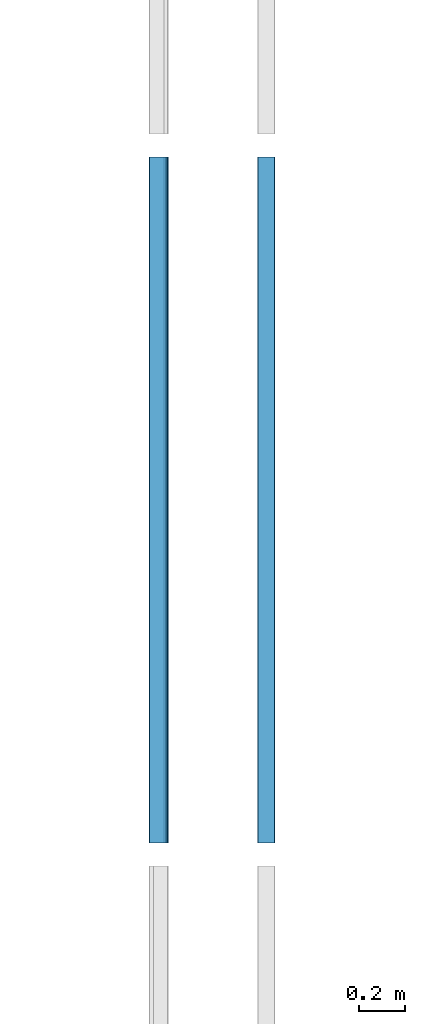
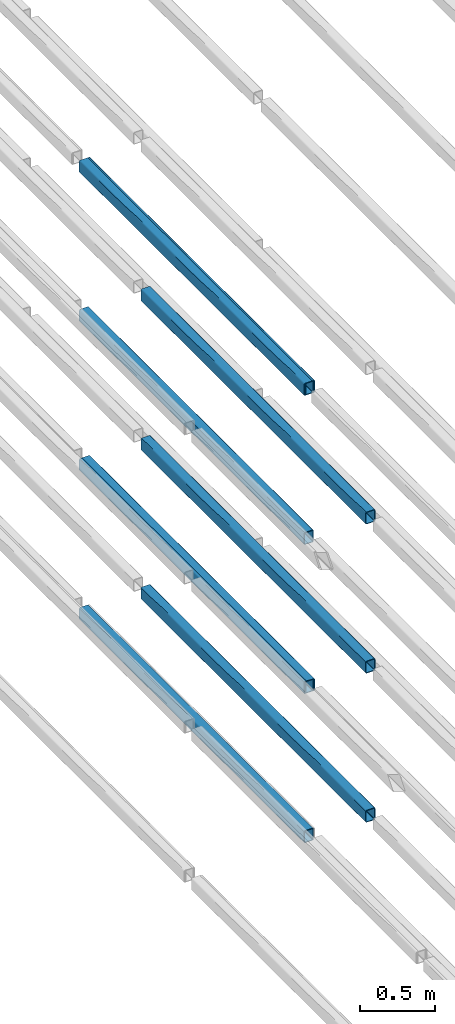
# One storey, part 61 of 290: 9 beams.
"""IFC2X3 building model written with IfcOpenShell, lengths in metres."""

from ifc_helpers import new_model, entity, si_unit, converted_unit, derived_unit, direction, frame, frame_2d, origin, place, context, subcontext, project, spatial, polyline, circle_curve, parameter, trimmed, segment, composite_curve, outline, extrude, material, type_object, element, save


model = new_model("IFC2X3")

# Units and contexts
model_context = context("Model", 3, precision=1e-05, world=origin(), true_north=direction((6.12303176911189e-17, 1.0)))
body_context = subcontext(model_context, "Body", "Model", "MODEL_VIEW")
ifc_project = project(units=[si_unit("LENGTHUNIT", "METRE"), si_unit("AREAUNIT", "SQUARE_METRE"), si_unit("VOLUMEUNIT", "CUBIC_METRE"), converted_unit("PLANEANGLEUNIT", "DEGREE", entity("IfcRatioMeasure", 0.0174532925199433), si_unit("PLANEANGLEUNIT", "RADIAN"), dimensions=[0, 0, 0, 0, 0, 0, 0]), si_unit("MASSUNIT", "GRAM", prefix="KILO"), derived_unit("MASSDENSITYUNIT", [(si_unit("MASSUNIT", "GRAM", prefix="KILO"), 1), (si_unit("LENGTHUNIT", "METRE"), -3)]), derived_unit("MOMENTOFINERTIAUNIT", [(si_unit("LENGTHUNIT", "METRE"), 4)]), si_unit("TIMEUNIT", "SECOND"), si_unit("FREQUENCYUNIT", "HERTZ"), si_unit("THERMODYNAMICTEMPERATUREUNIT", "DEGREE_CELSIUS"), derived_unit("THERMALTRANSMITTANCEUNIT", [(si_unit("MASSUNIT", "GRAM", prefix="KILO"), 1), (si_unit("THERMODYNAMICTEMPERATUREUNIT", "KELVIN"), -1), (si_unit("TIMEUNIT", "SECOND"), -3)]), derived_unit("VOLUMETRICFLOWRATEUNIT", [(si_unit("LENGTHUNIT", "METRE"), 3), (si_unit("TIMEUNIT", "SECOND"), -1)]), si_unit("ELECTRICCURRENTUNIT", "AMPERE"), si_unit("ELECTRICVOLTAGEUNIT", "VOLT"), si_unit("POWERUNIT", "WATT"), si_unit("FORCEUNIT", "NEWTON", prefix="KILO"), si_unit("ILLUMINANCEUNIT", "LUX"), si_unit("LUMINOUSFLUXUNIT", "LUMEN"), si_unit("LUMINOUSINTENSITYUNIT", "CANDELA"), derived_unit("USERDEFINED", [(si_unit("MASSUNIT", "GRAM", prefix="KILO"), -1), (si_unit("LENGTHUNIT", "METRE"), -2), (si_unit("TIMEUNIT", "SECOND"), 3), (si_unit("LUMINOUSFLUXUNIT", "LUMEN"), 1)]), derived_unit("LINEARVELOCITYUNIT", [(si_unit("LENGTHUNIT", "METRE"), 1), (si_unit("TIMEUNIT", "SECOND"), -1)]), si_unit("PRESSUREUNIT", "PASCAL"), derived_unit("USERDEFINED", [(si_unit("LENGTHUNIT", "METRE"), -2), (si_unit("MASSUNIT", "GRAM", prefix="KILO"), 1), (si_unit("TIMEUNIT", "SECOND"), -2)]), derived_unit("LINEARFORCEUNIT", [(si_unit("MASSUNIT", "GRAM", prefix="KILO"), 1), (si_unit("LENGTHUNIT", "METRE"), 1), (si_unit("TIMEUNIT", "SECOND"), -2), (si_unit("LENGTHUNIT", "METRE"), -1)]), derived_unit("PLANARFORCEUNIT", [(si_unit("MASSUNIT", "GRAM", prefix="KILO"), 1), (si_unit("LENGTHUNIT", "METRE"), 1), (si_unit("TIMEUNIT", "SECOND"), -2), (si_unit("LENGTHUNIT", "METRE"), -2)])], contexts=[model_context])

# Site, building, storey
site_placement = place(None, origin())
site = spatial("IfcSite", under=ifc_project, at=site_placement, Name="Default", CompositionType="ELEMENT")
building_placement = place(site_placement, origin())
building = spatial("IfcBuilding", under=site, at=building_placement, CompositionType="ELEMENT")
storey_placement = place(building_placement, frame((0.0, 0.0, 4.0)))
storey = spatial("IfcBuildingStorey", under=building, at=storey_placement, Name="01_OG", CompositionType="ELEMENT", Elevation=4.0)

# Beams
ifc_material = material(Name="Metall - Baustahl S235 blau")
beam_type = type_object("IfcBeamType", Name="RHS Träger (EN 10219-2):RHS 100 x 75 x 5", PredefinedType="NOTDEFINED")
beam_1_placement = place(storey_placement, frame((-200.715111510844, 42.648088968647, -1.2), z_axis=(0.0, 0.0, 1.0), x_axis=(0.0, 1.0, 0.0)))
element("IfcBeam", 1, at=beam_1_placement, inside=storey, type_object=beam_type, material=ifc_material, Name="RHS Träger (EN 10219-2):RHS 100 x 75 x 5", ObjectType="RHS Träger (EN 10219-2):RHS 100 x 75 x 5", context=body_context, shape_type="SweptSolid", body=[
    extrude(outline(composite_curve([segment(trimmed(circle_curve(frame_2d((-0.0274999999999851, -0.0400000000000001), x_axis=(1.0, 0.0)), 0.01), [parameter(180.0)], [parameter(270.0)], True, "PARAMETER"), True, "CONTINUOUS"), segment(polyline([(-0.0274999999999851, -0.05), (0.0274999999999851, -0.05)]), True, "CONTINUOUS"), segment(trimmed(circle_curve(frame_2d((0.0274999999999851, -0.0400000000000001), x_axis=(1.0, 0.0)), 0.01), [parameter(270.0)], [parameter(5.08888749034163e-14)], True, "PARAMETER"), True, "CONTINUOUS"), segment(polyline([(0.0375000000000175, -0.0400000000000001), (0.0375000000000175, 0.0400000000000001)]), True, "CONTINUOUS"), segment(trimmed(circle_curve(frame_2d((0.0274999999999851, 0.0400000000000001), x_axis=(1.0, 0.0)), 0.01), [parameter(360.0)], [parameter(89.9999999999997)], True, "PARAMETER"), True, "CONTINUOUS"), segment(polyline([(0.0274999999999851, 0.05), (-0.0274999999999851, 0.05)]), True, "CONTINUOUS"), segment(trimmed(circle_curve(frame_2d((-0.0274999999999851, 0.0400000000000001), x_axis=(1.0, 0.0)), 0.01), [parameter(90.0000000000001)], [parameter(180.0)], True, "PARAMETER"), True, "CONTINUOUS"), segment(polyline([(-0.0374999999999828, 0.0400000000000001), (-0.0374999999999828, -0.0400000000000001)]), True, "CONTINUOUS")], self_intersect=False), holes=[composite_curve([segment(polyline([(0.0274999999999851, -0.0450000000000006), (-0.0274999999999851, -0.0450000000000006)]), True, "CONTINUOUS"), segment(trimmed(circle_curve(frame_2d((-0.0274999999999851, -0.0400000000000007), x_axis=(1.0, 0.0)), 0.005), [parameter(180.0)], [parameter(270.0)], True, "PARAMETER"), False, "CONTINUOUS"), segment(polyline([(-0.0325000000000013, -0.0400000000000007), (-0.0325000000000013, 0.039999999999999)]), True, "CONTINUOUS"), segment(trimmed(circle_curve(frame_2d((-0.0274999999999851, 0.039999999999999), x_axis=(1.0, 0.0)), 0.005), [parameter(90.0000000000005)], [parameter(180.0)], True, "PARAMETER"), False, "CONTINUOUS"), segment(polyline([(-0.0274999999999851, 0.044999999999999), (0.0274999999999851, 0.044999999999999)]), True, "CONTINUOUS"), segment(trimmed(circle_curve(frame_2d((0.0274999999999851, 0.039999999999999), x_axis=(1.0, 0.0)), 0.005), [parameter(0.0)], [parameter(90.0000000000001)], True, "PARAMETER"), False, "CONTINUOUS"), segment(polyline([(0.0325000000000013, 0.039999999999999), (0.0325000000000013, -0.0400000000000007)]), True, "CONTINUOUS"), segment(trimmed(circle_curve(frame_2d((0.0274999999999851, -0.0400000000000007), x_axis=(1.0, 0.0)), 0.005), [parameter(270.0)], [parameter(4.07110999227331e-13)], True, "PARAMETER"), False, "CONTINUOUS")], self_intersect=False)]), frame((0.000100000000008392, 0.0375000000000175, -0.0500000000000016), z_axis=(1.0, 0.0, 0.0), x_axis=(0.0, -1.0, 0.0)), (0.0, 0.0, 1.0), 2.99979999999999),
])
beam_2_placement = place(storey_placement, frame((-200.715111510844, 42.648088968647, 0.0150000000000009), z_axis=(0.0, 0.0, 1.0), x_axis=(0.0, 1.0, 0.0)))
element("IfcBeam", 2, at=beam_2_placement, inside=storey, type_object=beam_type, material=ifc_material, Name="RHS Träger (EN 10219-2):RHS 100 x 75 x 5", ObjectType="RHS Träger (EN 10219-2):RHS 100 x 75 x 5", context=body_context, shape_type="SweptSolid", body=[
    extrude(outline(composite_curve([segment(trimmed(circle_curve(frame_2d((-0.0274999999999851, -0.0400000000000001), x_axis=(1.0, 0.0)), 0.01), [parameter(180.0)], [parameter(270.0)], True, "PARAMETER"), True, "CONTINUOUS"), segment(polyline([(-0.0274999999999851, -0.05), (0.0274999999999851, -0.05)]), True, "CONTINUOUS"), segment(trimmed(circle_curve(frame_2d((0.0274999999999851, -0.0400000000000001), x_axis=(1.0, 0.0)), 0.01), [parameter(270.0)], [parameter(5.08888749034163e-14)], True, "PARAMETER"), True, "CONTINUOUS"), segment(polyline([(0.0375000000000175, -0.0400000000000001), (0.0375000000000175, 0.0400000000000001)]), True, "CONTINUOUS"), segment(trimmed(circle_curve(frame_2d((0.0274999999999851, 0.0400000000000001), x_axis=(1.0, 0.0)), 0.01), [parameter(360.0)], [parameter(89.9999999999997)], True, "PARAMETER"), True, "CONTINUOUS"), segment(polyline([(0.0274999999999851, 0.05), (-0.0274999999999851, 0.05)]), True, "CONTINUOUS"), segment(trimmed(circle_curve(frame_2d((-0.0274999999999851, 0.0400000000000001), x_axis=(1.0, 0.0)), 0.01), [parameter(90.0000000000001)], [parameter(180.0)], True, "PARAMETER"), True, "CONTINUOUS"), segment(polyline([(-0.0374999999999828, 0.0400000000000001), (-0.0374999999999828, -0.0400000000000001)]), True, "CONTINUOUS")], self_intersect=False), holes=[composite_curve([segment(polyline([(0.0274999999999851, -0.0450000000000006), (-0.0274999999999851, -0.0450000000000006)]), True, "CONTINUOUS"), segment(trimmed(circle_curve(frame_2d((-0.0274999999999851, -0.0400000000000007), x_axis=(1.0, 0.0)), 0.005), [parameter(180.0)], [parameter(270.0)], True, "PARAMETER"), False, "CONTINUOUS"), segment(polyline([(-0.0325000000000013, -0.0400000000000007), (-0.0325000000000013, 0.039999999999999)]), True, "CONTINUOUS"), segment(trimmed(circle_curve(frame_2d((-0.0274999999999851, 0.039999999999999), x_axis=(1.0, 0.0)), 0.005), [parameter(90.0000000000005)], [parameter(180.0)], True, "PARAMETER"), False, "CONTINUOUS"), segment(polyline([(-0.0274999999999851, 0.044999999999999), (0.0274999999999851, 0.044999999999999)]), True, "CONTINUOUS"), segment(trimmed(circle_curve(frame_2d((0.0274999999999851, 0.039999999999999), x_axis=(1.0, 0.0)), 0.005), [parameter(0.0)], [parameter(90.0000000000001)], True, "PARAMETER"), False, "CONTINUOUS"), segment(polyline([(0.0325000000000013, 0.039999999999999), (0.0325000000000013, -0.0400000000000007)]), True, "CONTINUOUS"), segment(trimmed(circle_curve(frame_2d((0.0274999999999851, -0.0400000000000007), x_axis=(1.0, 0.0)), 0.005), [parameter(270.0)], [parameter(4.07110999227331e-13)], True, "PARAMETER"), False, "CONTINUOUS")], self_intersect=False)]), frame((0.000100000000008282, 0.0375000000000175, -0.0500000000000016), z_axis=(1.0, 0.0, 0.0), x_axis=(0.0, -1.0, 0.0)), (0.0, 0.0, 1.0), 2.99979999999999),
])
beam_3_placement = place(storey_placement, frame((-200.715111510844, 42.648088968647, 1.23), z_axis=(0.0, 0.0, 1.0), x_axis=(0.0, 1.0, 0.0)))
element("IfcBeam", 3, at=beam_3_placement, inside=storey, type_object=beam_type, material=ifc_material, Name="RHS Träger (EN 10219-2):RHS 100 x 75 x 5", ObjectType="RHS Träger (EN 10219-2):RHS 100 x 75 x 5", context=body_context, shape_type="SweptSolid", body=[
    extrude(outline(composite_curve([segment(trimmed(circle_curve(frame_2d((-0.0274999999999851, -0.0399999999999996), x_axis=(1.0, 0.0)), 0.01), [parameter(180.0)], [parameter(270.0)], True, "PARAMETER"), True, "CONTINUOUS"), segment(polyline([(-0.0274999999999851, -0.0499999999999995), (0.0274999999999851, -0.0499999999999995)]), True, "CONTINUOUS"), segment(trimmed(circle_curve(frame_2d((0.0274999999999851, -0.0399999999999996), x_axis=(1.0, 0.0)), 0.01), [parameter(270.0)], [parameter(5.08888749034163e-14)], True, "PARAMETER"), True, "CONTINUOUS"), segment(polyline([(0.0375000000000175, -0.0399999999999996), (0.0375000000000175, 0.0399999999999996)]), True, "CONTINUOUS"), segment(trimmed(circle_curve(frame_2d((0.0274999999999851, 0.0399999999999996), x_axis=(1.0, 0.0)), 0.01), [parameter(360.0)], [parameter(89.9999999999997)], True, "PARAMETER"), True, "CONTINUOUS"), segment(polyline([(0.0274999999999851, 0.0500000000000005), (-0.0274999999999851, 0.0500000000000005)]), True, "CONTINUOUS"), segment(trimmed(circle_curve(frame_2d((-0.0274999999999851, 0.0399999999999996), x_axis=(1.0, 0.0)), 0.01), [parameter(90.0000000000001)], [parameter(180.0)], True, "PARAMETER"), True, "CONTINUOUS"), segment(polyline([(-0.0374999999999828, 0.0399999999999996), (-0.0374999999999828, -0.0399999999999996)]), True, "CONTINUOUS")], self_intersect=False), holes=[composite_curve([segment(polyline([(0.0274999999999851, -0.0450000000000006), (-0.0274999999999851, -0.0450000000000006)]), True, "CONTINUOUS"), segment(trimmed(circle_curve(frame_2d((-0.0274999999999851, -0.0400000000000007), x_axis=(1.0, 0.0)), 0.005), [parameter(180.0)], [parameter(270.0)], True, "PARAMETER"), False, "CONTINUOUS"), segment(polyline([(-0.0325000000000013, -0.0400000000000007), (-0.0325000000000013, 0.0399999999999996)]), True, "CONTINUOUS"), segment(trimmed(circle_curve(frame_2d((-0.0274999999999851, 0.0399999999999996), x_axis=(1.0, 0.0)), 0.005), [parameter(90.0000000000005)], [parameter(180.0)], True, "PARAMETER"), False, "CONTINUOUS"), segment(polyline([(-0.0274999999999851, 0.0449999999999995), (0.0274999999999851, 0.0449999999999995)]), True, "CONTINUOUS"), segment(trimmed(circle_curve(frame_2d((0.0274999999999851, 0.0399999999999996), x_axis=(1.0, 0.0)), 0.005), [parameter(0.0)], [parameter(90.0000000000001)], True, "PARAMETER"), False, "CONTINUOUS"), segment(polyline([(0.0325000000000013, 0.0399999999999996), (0.0325000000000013, -0.0400000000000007)]), True, "CONTINUOUS"), segment(trimmed(circle_curve(frame_2d((0.0274999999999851, -0.0400000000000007), x_axis=(1.0, 0.0)), 0.005), [parameter(270.0)], [parameter(4.07110999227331e-13)], True, "PARAMETER"), False, "CONTINUOUS")], self_intersect=False)]), frame((0.000100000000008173, 0.0375000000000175, -0.0500000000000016), z_axis=(1.0, 0.0, 0.0), x_axis=(0.0, -1.0, 0.0)), (0.0, 0.0, 1.0), 2.99979999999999),
])
beam_4_placement = place(storey_placement, frame((-201.255111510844, 42.648088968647, 0.0150000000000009), z_axis=(0.0, 0.0, 1.0), x_axis=(0.0, 1.0, 0.0)))
element("IfcBeam", 4, at=beam_4_placement, inside=storey, type_object=beam_type, material=ifc_material, Name="RHS Träger (EN 10219-2):RHS 100 x 75 x 5", ObjectType="RHS Träger (EN 10219-2):RHS 100 x 75 x 5", context=body_context, shape_type="SweptSolid", body=[
    extrude(outline(composite_curve([segment(polyline([(-0.0400000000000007, -0.0374999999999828), (0.0399999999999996, -0.0374999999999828)]), True, "CONTINUOUS"), segment(trimmed(circle_curve(frame_2d((0.0399999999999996, -0.0274999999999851), x_axis=(0.0, 1.0)), 0.01), [parameter(180.0)], [parameter(270.0)], True, "PARAMETER"), True, "CONTINUOUS"), segment(polyline([(0.0499999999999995, -0.0274999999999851), (0.0499999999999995, 0.0274999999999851)]), True, "CONTINUOUS"), segment(trimmed(circle_curve(frame_2d((0.0399999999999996, 0.0274999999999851), x_axis=(0.0, 1.0)), 0.01), [parameter(270.0)], [parameter(4.07110999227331e-13)], True, "PARAMETER"), True, "CONTINUOUS"), segment(polyline([(0.0399999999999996, 0.0375000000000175), (-0.0400000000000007, 0.0375000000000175)]), True, "CONTINUOUS"), segment(trimmed(circle_curve(frame_2d((-0.0400000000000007, 0.0274999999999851), x_axis=(0.0, 1.0)), 0.01), [parameter(360.0)], [parameter(90.0000000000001)], True, "PARAMETER"), True, "CONTINUOUS"), segment(polyline([(-0.0500000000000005, 0.0274999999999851), (-0.0500000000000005, -0.0274999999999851)]), True, "CONTINUOUS"), segment(trimmed(circle_curve(frame_2d((-0.0400000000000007, -0.0274999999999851), x_axis=(0.0, 1.0)), 0.01), [parameter(90.0000000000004)], [parameter(180.0)], True, "PARAMETER"), True, "CONTINUOUS")], self_intersect=False), holes=[composite_curve([segment(trimmed(circle_curve(frame_2d((-0.0400000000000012, 0.0274999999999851), x_axis=(0.0, 1.0)), 0.005), [parameter(360.0)], [parameter(89.9999999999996)], True, "PARAMETER"), False, "CONTINUOUS"), segment(polyline([(-0.0400000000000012, 0.0325000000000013), (0.0399999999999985, 0.0325000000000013)]), True, "CONTINUOUS"), segment(trimmed(circle_curve(frame_2d((0.0399999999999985, 0.0274999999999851), x_axis=(0.0, 1.0)), 0.005), [parameter(270.0)], [parameter(0.0)], True, "PARAMETER"), False, "CONTINUOUS"), segment(polyline([(0.0449999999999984, 0.0274999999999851), (0.0449999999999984, -0.0274999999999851)]), True, "CONTINUOUS"), segment(trimmed(circle_curve(frame_2d((0.0399999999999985, -0.0274999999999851), x_axis=(0.0, 1.0)), 0.005), [parameter(180.0)], [parameter(269.999999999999)], True, "PARAMETER"), False, "CONTINUOUS"), segment(polyline([(0.0399999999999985, -0.0325000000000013), (-0.0400000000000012, -0.0325000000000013)]), True, "CONTINUOUS"), segment(trimmed(circle_curve(frame_2d((-0.0400000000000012, -0.0274999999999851), x_axis=(0.0, 1.0)), 0.005), [parameter(90.0000000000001)], [parameter(180.0)], True, "PARAMETER"), False, "CONTINUOUS"), segment(polyline([(-0.0450000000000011, -0.0274999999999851), (-0.0450000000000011, 0.0274999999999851)]), True, "CONTINUOUS")], self_intersect=False)]), frame((0.000100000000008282, -0.0375000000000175, -0.0500000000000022), z_axis=(1.0, 0.0, 0.0), x_axis=(0.0, 0.0, -1.0)), (0.0, 0.0, 1.0), 2.99979999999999),
])
beam_5_placement = place(storey_placement, frame((-201.255111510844, 42.648088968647, 2.445), z_axis=(0.0, 0.0, 1.0), x_axis=(0.0, 1.0, 0.0)))
element("IfcBeam", 5, at=beam_5_placement, inside=storey, type_object=beam_type, material=ifc_material, Name="RHS Träger (EN 10219-2):RHS 100 x 75 x 5", ObjectType="RHS Träger (EN 10219-2):RHS 100 x 75 x 5", context=body_context, shape_type="SweptSolid", body=[
    extrude(outline(composite_curve([segment(polyline([(-0.0399999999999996, -0.0374999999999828), (0.0399999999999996, -0.0374999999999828)]), True, "CONTINUOUS"), segment(trimmed(circle_curve(frame_2d((0.0399999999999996, -0.0274999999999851), x_axis=(0.0, 1.0)), 0.01), [parameter(180.0)], [parameter(270.0)], True, "PARAMETER"), True, "CONTINUOUS"), segment(polyline([(0.0500000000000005, -0.0274999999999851), (0.0500000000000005, 0.0274999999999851)]), True, "CONTINUOUS"), segment(trimmed(circle_curve(frame_2d((0.0399999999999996, 0.0274999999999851), x_axis=(0.0, 1.0)), 0.01), [parameter(270.0)], [parameter(4.07110999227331e-13)], True, "PARAMETER"), True, "CONTINUOUS"), segment(polyline([(0.0399999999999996, 0.0375000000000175), (-0.0399999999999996, 0.0375000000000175)]), True, "CONTINUOUS"), segment(trimmed(circle_curve(frame_2d((-0.0399999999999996, 0.0274999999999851), x_axis=(0.0, 1.0)), 0.01), [parameter(360.0)], [parameter(90.0000000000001)], True, "PARAMETER"), True, "CONTINUOUS"), segment(polyline([(-0.0499999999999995, 0.0274999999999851), (-0.0499999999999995, -0.0274999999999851)]), True, "CONTINUOUS"), segment(trimmed(circle_curve(frame_2d((-0.0399999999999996, -0.0274999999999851), x_axis=(0.0, 1.0)), 0.01), [parameter(90.0000000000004)], [parameter(180.0)], True, "PARAMETER"), True, "CONTINUOUS")], self_intersect=False), holes=[composite_curve([segment(trimmed(circle_curve(frame_2d((-0.0400000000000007, 0.0274999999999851), x_axis=(0.0, 1.0)), 0.005), [parameter(360.0)], [parameter(89.9999999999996)], True, "PARAMETER"), False, "CONTINUOUS"), segment(polyline([(-0.0400000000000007, 0.0325000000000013), (0.0399999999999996, 0.0325000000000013)]), True, "CONTINUOUS"), segment(trimmed(circle_curve(frame_2d((0.0399999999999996, 0.0274999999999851), x_axis=(0.0, 1.0)), 0.005), [parameter(270.0)], [parameter(0.0)], True, "PARAMETER"), False, "CONTINUOUS"), segment(polyline([(0.0449999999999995, 0.0274999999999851), (0.0449999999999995, -0.0274999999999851)]), True, "CONTINUOUS"), segment(trimmed(circle_curve(frame_2d((0.0399999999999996, -0.0274999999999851), x_axis=(0.0, 1.0)), 0.005), [parameter(180.0)], [parameter(269.999999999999)], True, "PARAMETER"), False, "CONTINUOUS"), segment(polyline([(0.0399999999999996, -0.0325000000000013), (-0.0400000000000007, -0.0325000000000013)]), True, "CONTINUOUS"), segment(trimmed(circle_curve(frame_2d((-0.0400000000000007, -0.0274999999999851), x_axis=(0.0, 1.0)), 0.005), [parameter(90.0000000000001)], [parameter(180.0)], True, "PARAMETER"), False, "CONTINUOUS"), segment(polyline([(-0.0450000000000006, -0.0274999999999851), (-0.0450000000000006, 0.0274999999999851)]), True, "CONTINUOUS")], self_intersect=False)]), frame((0.000100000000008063, -0.0375000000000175, -0.0500000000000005), z_axis=(1.0, 0.0, 0.0), x_axis=(0.0, 0.0, -1.0)), (0.0, 0.0, 1.0), 2.99979999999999),
])
beam_6_placement = place(storey_placement, frame((-201.265111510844, 42.648088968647, -1.2), z_axis=(0.0, 0.0, 1.0), x_axis=(0.0, 1.0, 0.0)))
element("IfcBeam", 6, at=beam_6_placement, inside=storey, type_object=beam_type, material=ifc_material, Name="RHS Träger (EN 10219-2):RHS 100 x 75 x 5", ObjectType="RHS Träger (EN 10219-2):RHS 100 x 75 x 5", context=body_context, shape_type="SweptSolid", body=[
    extrude(outline(composite_curve([segment(polyline([(-0.0400000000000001, -0.0374999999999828), (0.0400000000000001, -0.0374999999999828)]), True, "CONTINUOUS"), segment(trimmed(circle_curve(frame_2d((0.0400000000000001, -0.0274999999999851), x_axis=(0.0, 1.0)), 0.01), [parameter(180.0)], [parameter(270.0)], True, "PARAMETER"), True, "CONTINUOUS"), segment(polyline([(0.05, -0.0274999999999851), (0.05, 0.0274999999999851)]), True, "CONTINUOUS"), segment(trimmed(circle_curve(frame_2d((0.0400000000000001, 0.0274999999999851), x_axis=(0.0, 1.0)), 0.01), [parameter(270.0)], [parameter(4.07110999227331e-13)], True, "PARAMETER"), True, "CONTINUOUS"), segment(polyline([(0.0400000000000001, 0.0375000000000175), (-0.0400000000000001, 0.0375000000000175)]), True, "CONTINUOUS"), segment(trimmed(circle_curve(frame_2d((-0.0400000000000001, 0.0274999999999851), x_axis=(0.0, 1.0)), 0.01), [parameter(360.0)], [parameter(90.0000000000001)], True, "PARAMETER"), True, "CONTINUOUS"), segment(polyline([(-0.05, 0.0274999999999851), (-0.05, -0.0274999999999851)]), True, "CONTINUOUS"), segment(trimmed(circle_curve(frame_2d((-0.0400000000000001, -0.0274999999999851), x_axis=(0.0, 1.0)), 0.01), [parameter(90.0000000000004)], [parameter(180.0)], True, "PARAMETER"), True, "CONTINUOUS")], self_intersect=False), holes=[composite_curve([segment(trimmed(circle_curve(frame_2d((-0.0400000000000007, 0.0274999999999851), x_axis=(0.0, 1.0)), 0.005), [parameter(360.0)], [parameter(89.9999999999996)], True, "PARAMETER"), False, "CONTINUOUS"), segment(polyline([(-0.0400000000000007, 0.0325000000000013), (0.039999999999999, 0.0325000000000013)]), True, "CONTINUOUS"), segment(trimmed(circle_curve(frame_2d((0.039999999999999, 0.0274999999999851), x_axis=(0.0, 1.0)), 0.005), [parameter(270.0)], [parameter(0.0)], True, "PARAMETER"), False, "CONTINUOUS"), segment(polyline([(0.044999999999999, 0.0274999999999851), (0.044999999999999, -0.0274999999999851)]), True, "CONTINUOUS"), segment(trimmed(circle_curve(frame_2d((0.039999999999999, -0.0274999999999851), x_axis=(0.0, 1.0)), 0.005), [parameter(180.0)], [parameter(269.999999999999)], True, "PARAMETER"), False, "CONTINUOUS"), segment(polyline([(0.039999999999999, -0.0325000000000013), (-0.0400000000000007, -0.0325000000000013)]), True, "CONTINUOUS"), segment(trimmed(circle_curve(frame_2d((-0.0400000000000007, -0.0274999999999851), x_axis=(0.0, 1.0)), 0.005), [parameter(90.0000000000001)], [parameter(180.0)], True, "PARAMETER"), False, "CONTINUOUS"), segment(polyline([(-0.0450000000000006, -0.0274999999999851), (-0.0450000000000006, 0.0274999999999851)]), True, "CONTINUOUS")], self_intersect=False)]), frame((0.000100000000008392, -0.0375000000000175, -0.0500000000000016), z_axis=(1.0, 0.0, 0.0), x_axis=(0.0, 0.0, -1.0)), (0.0, 0.0, 1.0), 2.99979999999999),
])
beam_7_placement = place(storey_placement, frame((-201.265111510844, 42.648088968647, 0.0150000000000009), z_axis=(0.0, 0.0, 1.0), x_axis=(0.0, 1.0, 0.0)))
element("IfcBeam", 7, at=beam_7_placement, inside=storey, type_object=beam_type, material=ifc_material, Name="RHS Träger (EN 10219-2):RHS 100 x 75 x 5", ObjectType="RHS Träger (EN 10219-2):RHS 100 x 75 x 5", context=body_context, shape_type="SweptSolid", body=[
    extrude(outline(composite_curve([segment(polyline([(-0.0400000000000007, -0.0374999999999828), (0.0399999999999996, -0.0374999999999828)]), True, "CONTINUOUS"), segment(trimmed(circle_curve(frame_2d((0.0399999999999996, -0.0274999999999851), x_axis=(0.0, 1.0)), 0.01), [parameter(180.0)], [parameter(270.0)], True, "PARAMETER"), True, "CONTINUOUS"), segment(polyline([(0.0499999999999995, -0.0274999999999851), (0.0499999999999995, 0.0274999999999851)]), True, "CONTINUOUS"), segment(trimmed(circle_curve(frame_2d((0.0399999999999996, 0.0274999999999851), x_axis=(0.0, 1.0)), 0.01), [parameter(270.0)], [parameter(4.07110999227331e-13)], True, "PARAMETER"), True, "CONTINUOUS"), segment(polyline([(0.0399999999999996, 0.0375000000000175), (-0.0400000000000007, 0.0375000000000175)]), True, "CONTINUOUS"), segment(trimmed(circle_curve(frame_2d((-0.0400000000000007, 0.0274999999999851), x_axis=(0.0, 1.0)), 0.01), [parameter(360.0)], [parameter(90.0000000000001)], True, "PARAMETER"), True, "CONTINUOUS"), segment(polyline([(-0.0500000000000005, 0.0274999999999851), (-0.0500000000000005, -0.0274999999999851)]), True, "CONTINUOUS"), segment(trimmed(circle_curve(frame_2d((-0.0400000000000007, -0.0274999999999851), x_axis=(0.0, 1.0)), 0.01), [parameter(90.0000000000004)], [parameter(180.0)], True, "PARAMETER"), True, "CONTINUOUS")], self_intersect=False), holes=[composite_curve([segment(trimmed(circle_curve(frame_2d((-0.0400000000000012, 0.0274999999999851), x_axis=(0.0, 1.0)), 0.005), [parameter(360.0)], [parameter(89.9999999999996)], True, "PARAMETER"), False, "CONTINUOUS"), segment(polyline([(-0.0400000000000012, 0.0325000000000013), (0.0399999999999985, 0.0325000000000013)]), True, "CONTINUOUS"), segment(trimmed(circle_curve(frame_2d((0.0399999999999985, 0.0274999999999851), x_axis=(0.0, 1.0)), 0.005), [parameter(270.0)], [parameter(0.0)], True, "PARAMETER"), False, "CONTINUOUS"), segment(polyline([(0.0449999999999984, 0.0274999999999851), (0.0449999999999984, -0.0274999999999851)]), True, "CONTINUOUS"), segment(trimmed(circle_curve(frame_2d((0.0399999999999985, -0.0274999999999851), x_axis=(0.0, 1.0)), 0.005), [parameter(180.0)], [parameter(269.999999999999)], True, "PARAMETER"), False, "CONTINUOUS"), segment(polyline([(0.0399999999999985, -0.0325000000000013), (-0.0400000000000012, -0.0325000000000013)]), True, "CONTINUOUS"), segment(trimmed(circle_curve(frame_2d((-0.0400000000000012, -0.0274999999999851), x_axis=(0.0, 1.0)), 0.005), [parameter(90.0000000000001)], [parameter(180.0)], True, "PARAMETER"), False, "CONTINUOUS"), segment(polyline([(-0.0450000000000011, -0.0274999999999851), (-0.0450000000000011, 0.0274999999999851)]), True, "CONTINUOUS")], self_intersect=False)]), frame((0.000100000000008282, -0.0375000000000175, -0.0500000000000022), z_axis=(1.0, 0.0, 0.0), x_axis=(0.0, 0.0, -1.0)), (0.0, 0.0, 1.0), 2.99979999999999),
])
beam_8_placement = place(storey_placement, frame((-201.265111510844, 42.648088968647, 1.23), z_axis=(0.0, 0.0, 1.0), x_axis=(0.0, 1.0, 0.0)))
element("IfcBeam", 8, at=beam_8_placement, inside=storey, type_object=beam_type, material=ifc_material, Name="RHS Träger (EN 10219-2):RHS 100 x 75 x 5", ObjectType="RHS Träger (EN 10219-2):RHS 100 x 75 x 5", context=body_context, shape_type="SweptSolid", body=[
    extrude(outline(composite_curve([segment(polyline([(-0.0399999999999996, -0.0374999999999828), (0.0399999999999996, -0.0374999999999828)]), True, "CONTINUOUS"), segment(trimmed(circle_curve(frame_2d((0.0399999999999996, -0.0274999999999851), x_axis=(0.0, 1.0)), 0.01), [parameter(180.0)], [parameter(270.0)], True, "PARAMETER"), True, "CONTINUOUS"), segment(polyline([(0.0500000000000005, -0.0274999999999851), (0.0500000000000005, 0.0274999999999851)]), True, "CONTINUOUS"), segment(trimmed(circle_curve(frame_2d((0.0399999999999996, 0.0274999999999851), x_axis=(0.0, 1.0)), 0.01), [parameter(270.0)], [parameter(4.07110999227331e-13)], True, "PARAMETER"), True, "CONTINUOUS"), segment(polyline([(0.0399999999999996, 0.0375000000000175), (-0.0399999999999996, 0.0375000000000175)]), True, "CONTINUOUS"), segment(trimmed(circle_curve(frame_2d((-0.0399999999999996, 0.0274999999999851), x_axis=(0.0, 1.0)), 0.01), [parameter(360.0)], [parameter(90.0000000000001)], True, "PARAMETER"), True, "CONTINUOUS"), segment(polyline([(-0.0499999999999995, 0.0274999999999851), (-0.0499999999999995, -0.0274999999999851)]), True, "CONTINUOUS"), segment(trimmed(circle_curve(frame_2d((-0.0399999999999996, -0.0274999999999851), x_axis=(0.0, 1.0)), 0.01), [parameter(90.0000000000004)], [parameter(180.0)], True, "PARAMETER"), True, "CONTINUOUS")], self_intersect=False), holes=[composite_curve([segment(trimmed(circle_curve(frame_2d((-0.0400000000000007, 0.0274999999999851), x_axis=(0.0, 1.0)), 0.005), [parameter(360.0)], [parameter(89.9999999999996)], True, "PARAMETER"), False, "CONTINUOUS"), segment(polyline([(-0.0400000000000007, 0.0325000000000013), (0.0399999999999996, 0.0325000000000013)]), True, "CONTINUOUS"), segment(trimmed(circle_curve(frame_2d((0.0399999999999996, 0.0274999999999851), x_axis=(0.0, 1.0)), 0.005), [parameter(270.0)], [parameter(0.0)], True, "PARAMETER"), False, "CONTINUOUS"), segment(polyline([(0.0449999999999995, 0.0274999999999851), (0.0449999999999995, -0.0274999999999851)]), True, "CONTINUOUS"), segment(trimmed(circle_curve(frame_2d((0.0399999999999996, -0.0274999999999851), x_axis=(0.0, 1.0)), 0.005), [parameter(180.0)], [parameter(269.999999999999)], True, "PARAMETER"), False, "CONTINUOUS"), segment(polyline([(0.0399999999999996, -0.0325000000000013), (-0.0400000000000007, -0.0325000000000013)]), True, "CONTINUOUS"), segment(trimmed(circle_curve(frame_2d((-0.0400000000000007, -0.0274999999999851), x_axis=(0.0, 1.0)), 0.005), [parameter(90.0000000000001)], [parameter(180.0)], True, "PARAMETER"), False, "CONTINUOUS"), segment(polyline([(-0.0450000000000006, -0.0274999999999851), (-0.0450000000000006, 0.0274999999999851)]), True, "CONTINUOUS")], self_intersect=False)]), frame((0.000100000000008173, -0.0375000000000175, -0.0500000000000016), z_axis=(1.0, 0.0, 0.0), x_axis=(0.0, 0.0, -1.0)), (0.0, 0.0, 1.0), 2.99979999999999),
])
beam_9_placement = place(storey_placement, frame((-201.265111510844, 42.648088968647, 2.445), z_axis=(0.0, 0.0, 1.0), x_axis=(0.0, 1.0, 0.0)))
element("IfcBeam", 9, at=beam_9_placement, inside=storey, type_object=beam_type, material=ifc_material, Name="RHS Träger (EN 10219-2):RHS 100 x 75 x 5", ObjectType="RHS Träger (EN 10219-2):RHS 100 x 75 x 5", context=body_context, shape_type="SweptSolid", body=[
    extrude(outline(composite_curve([segment(polyline([(-0.0399999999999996, -0.0374999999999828), (0.0399999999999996, -0.0374999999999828)]), True, "CONTINUOUS"), segment(trimmed(circle_curve(frame_2d((0.0399999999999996, -0.0274999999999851), x_axis=(0.0, 1.0)), 0.01), [parameter(180.0)], [parameter(270.0)], True, "PARAMETER"), True, "CONTINUOUS"), segment(polyline([(0.0500000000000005, -0.0274999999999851), (0.0500000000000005, 0.0274999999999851)]), True, "CONTINUOUS"), segment(trimmed(circle_curve(frame_2d((0.0399999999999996, 0.0274999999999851), x_axis=(0.0, 1.0)), 0.01), [parameter(270.0)], [parameter(4.07110999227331e-13)], True, "PARAMETER"), True, "CONTINUOUS"), segment(polyline([(0.0399999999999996, 0.0375000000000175), (-0.0399999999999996, 0.0375000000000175)]), True, "CONTINUOUS"), segment(trimmed(circle_curve(frame_2d((-0.0399999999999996, 0.0274999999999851), x_axis=(0.0, 1.0)), 0.01), [parameter(360.0)], [parameter(90.0000000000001)], True, "PARAMETER"), True, "CONTINUOUS"), segment(polyline([(-0.0499999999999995, 0.0274999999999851), (-0.0499999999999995, -0.0274999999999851)]), True, "CONTINUOUS"), segment(trimmed(circle_curve(frame_2d((-0.0399999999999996, -0.0274999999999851), x_axis=(0.0, 1.0)), 0.01), [parameter(90.0000000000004)], [parameter(180.0)], True, "PARAMETER"), True, "CONTINUOUS")], self_intersect=False), holes=[composite_curve([segment(trimmed(circle_curve(frame_2d((-0.0400000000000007, 0.0274999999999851), x_axis=(0.0, 1.0)), 0.005), [parameter(360.0)], [parameter(89.9999999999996)], True, "PARAMETER"), False, "CONTINUOUS"), segment(polyline([(-0.0400000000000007, 0.0325000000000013), (0.0399999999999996, 0.0325000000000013)]), True, "CONTINUOUS"), segment(trimmed(circle_curve(frame_2d((0.0399999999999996, 0.0274999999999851), x_axis=(0.0, 1.0)), 0.005), [parameter(270.0)], [parameter(0.0)], True, "PARAMETER"), False, "CONTINUOUS"), segment(polyline([(0.0449999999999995, 0.0274999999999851), (0.0449999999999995, -0.0274999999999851)]), True, "CONTINUOUS"), segment(trimmed(circle_curve(frame_2d((0.0399999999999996, -0.0274999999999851), x_axis=(0.0, 1.0)), 0.005), [parameter(180.0)], [parameter(269.999999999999)], True, "PARAMETER"), False, "CONTINUOUS"), segment(polyline([(0.0399999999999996, -0.0325000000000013), (-0.0400000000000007, -0.0325000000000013)]), True, "CONTINUOUS"), segment(trimmed(circle_curve(frame_2d((-0.0400000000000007, -0.0274999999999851), x_axis=(0.0, 1.0)), 0.005), [parameter(90.0000000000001)], [parameter(180.0)], True, "PARAMETER"), False, "CONTINUOUS"), segment(polyline([(-0.0450000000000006, -0.0274999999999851), (-0.0450000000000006, 0.0274999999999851)]), True, "CONTINUOUS")], self_intersect=False)]), frame((0.000100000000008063, -0.0375000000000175, -0.0500000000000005), z_axis=(1.0, 0.0, 0.0), x_axis=(0.0, 0.0, -1.0)), (0.0, 0.0, 1.0), 2.99979999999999),
])

save(model, "model.ifc")
